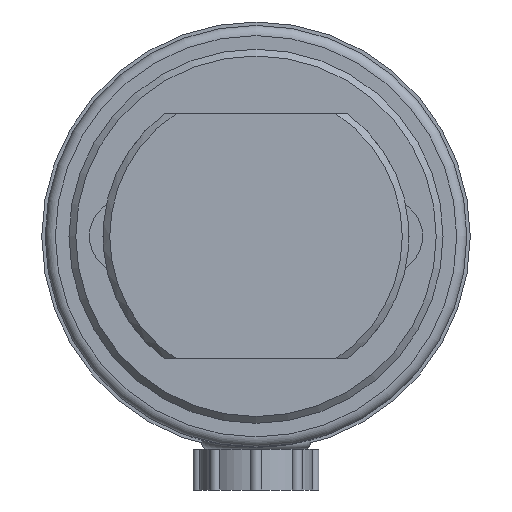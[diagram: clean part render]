
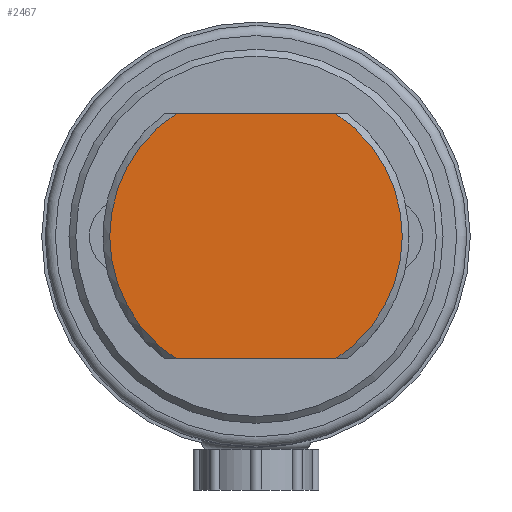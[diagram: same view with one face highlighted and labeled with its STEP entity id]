
A CAD part, left-side view. The second image highlights one B-rep face of the part: STEP entity #2467.
In plain terms, the highlighted planar face has unit normal (-1, 0, 0).
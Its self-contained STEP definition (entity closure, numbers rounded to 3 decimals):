
#191=LINE('',#4454,#293);
#192=LINE('',#4458,#294);
#293=VECTOR('',#3552,10.);
#294=VECTOR('',#3555,10.);
#493=FACE_OUTER_BOUND('',#649,.T.);
#649=EDGE_LOOP('',(#2062,#2063,#2064,#2065));
#854=CIRCLE('',#2820,21.5);
#855=CIRCLE('',#2821,21.5);
#1083=VERTEX_POINT('',#4452);
#1084=VERTEX_POINT('',#4453);
#1085=VERTEX_POINT('',#4455);
#1086=VERTEX_POINT('',#4457);
#1414=EDGE_CURVE('',#1083,#1084,#191,.T.);
#1415=EDGE_CURVE('',#1085,#1084,#854,.T.);
#1416=EDGE_CURVE('',#1085,#1086,#192,.T.);
#1417=EDGE_CURVE('',#1083,#1086,#855,.T.);
#2062=ORIENTED_EDGE('',*,*,#1414,.T.);
#2063=ORIENTED_EDGE('',*,*,#1415,.F.);
#2064=ORIENTED_EDGE('',*,*,#1416,.T.);
#2065=ORIENTED_EDGE('',*,*,#1417,.F.);
#2198=PLANE('',#2819);
#2467=ADVANCED_FACE('',(#493),#2198,.T.);
#2819=AXIS2_PLACEMENT_3D('',#4451,#3550,#3551);
#2820=AXIS2_PLACEMENT_3D('',#4456,#3553,#3554);
#2821=AXIS2_PLACEMENT_3D('',#4459,#3556,#3557);
#3550=DIRECTION('center_axis',(-1.,0.,0.));
#3551=DIRECTION('ref_axis',(0.,0.,
-1.));
#3552=DIRECTION('',(0.,1.,0.));
#3553=DIRECTION('center_axis',(1.,0.,0.));
#3554=DIRECTION('ref_axis',(0.,1.,0.));
#3555=DIRECTION('',(0.,-1.,0.));
#3556=DIRECTION('center_axis',(1.,0.,0.));
#3557=DIRECTION('ref_axis',(0.,1.,0.));
#4451=CARTESIAN_POINT('Origin',(-102.913,-15.339,2.9));
#4452=CARTESIAN_POINT('',(-102.913,-15.847,20.9));
#4453=CARTESIAN_POINT('',(-102.913,7.669,20.9));
#4454=CARTESIAN_POINT('',(-102.913,-9.741,20.9));
#4455=CARTESIAN_POINT('',(-102.913,7.669,-15.1));
#4456=CARTESIAN_POINT('Origin',(-102.913,-4.089,2.9));
#4457=CARTESIAN_POINT('',(-102.913,-15.847,-15.1));
#4458=CARTESIAN_POINT('',(-102.913,-9.741,-15.1));
#4459=CARTESIAN_POINT('Origin',(-102.913,-4.089,2.9));
